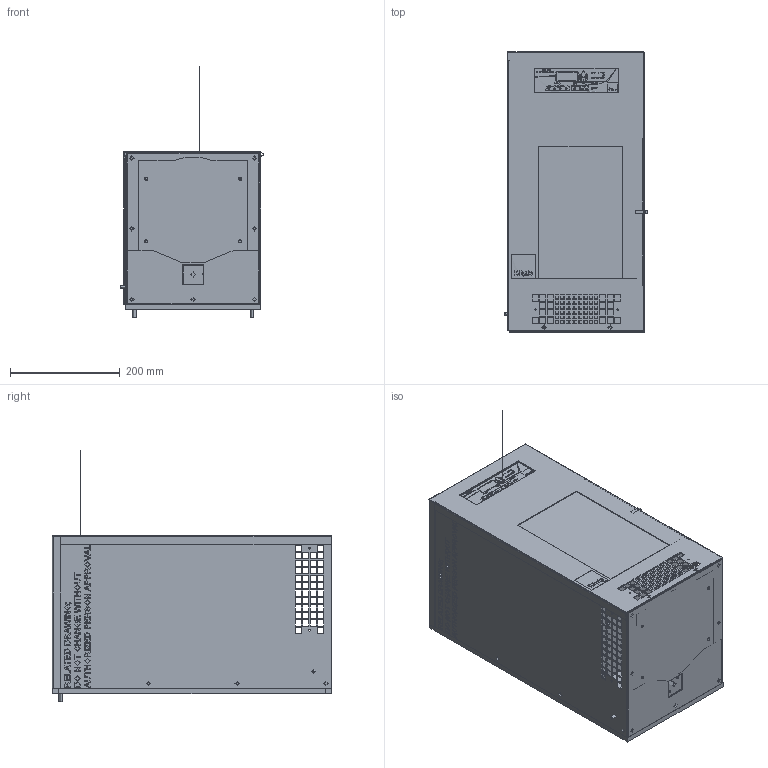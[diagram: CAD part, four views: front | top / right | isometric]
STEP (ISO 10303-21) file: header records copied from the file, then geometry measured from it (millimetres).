
FILE_DESCRIPTION (( 'STEP AP203' ), '1' );
FILE_NAME ('3D Model, IQ8-10-12EV.STEP', '2024-12-20T18:43:23', ( '' ), ( '' ), 'SwSTEP 2.0', 'SolidWorks 2024', '' );
FILE_SCHEMA (( 'CONFIG_CONTROL_DESIGN' ));
Products named in the file (1): 3D Model, IQ8-10-12EV
Bounding box: 259.79 x 511.18 x 458.79 mm (x, y, z)
Topology: 0 solids, 246 shells, 1530 faces, 6969 edges, 5572 vertices
Faces by surface type: plane 1033, bspline 216, cylinder 158, cone 122, sphere 1
Full cylindrical faces by diameter (mm): 1.651 x12, 2.705 x17, 2.794 x8, 3.454 x7, 3.797 x2, 4.064 x9, 4.166 x3, 4.763 x4, 5.105 x4, 5.41 x7, 5.791 x6, 6 x1, 6.35 x4, 7.036 x1, 7.874 x2, 7.937 x1, 8.738 x1, 9.525 x1, 10.001 x1, 11.112 x1, 11.176 x1, 21.59 x1, 25.781 x1, 100.012 x1
Entity records: 110218 total; most frequent: CARTESIAN_POINT 60016, ORIENTED_EDGE 9156, DIRECTION 7840, EDGE_CURVE 6682, VERTEX_POINT 5502, VECTOR 4308, LINE 4308, EDGE_LOOP 2462
